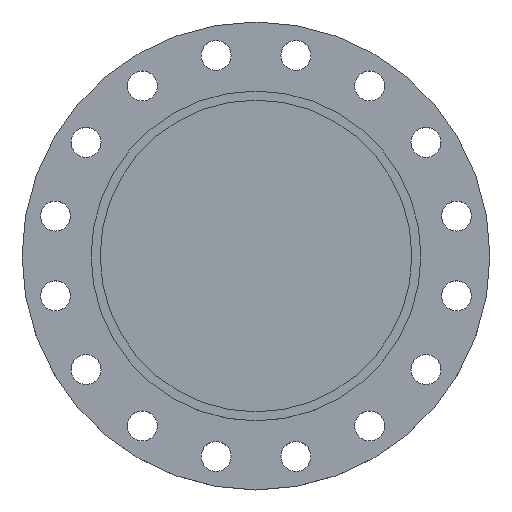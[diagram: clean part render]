
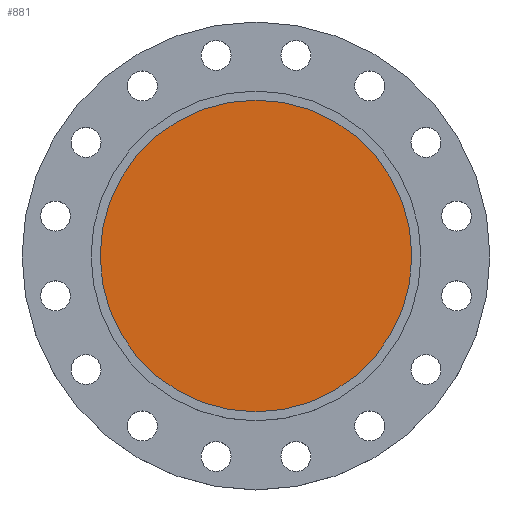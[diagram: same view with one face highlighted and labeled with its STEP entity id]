
A CAD part, top view. The second image highlights one B-rep face of the part: STEP entity #881.
In plain terms, the highlighted planar face has unit normal (0, 0, 1).
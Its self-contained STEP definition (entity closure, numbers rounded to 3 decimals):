
#81 = CARTESIAN_POINT ( 'NONE',  ( -171.5, 0., -5. ) ) ;
#89 = CIRCLE ( 'NONE', #988, 171.5 ) ;
#97 = EDGE_CURVE ( 'NONE', #1184, #430, #770, .T. ) ;
#164 = DIRECTION ( 'NONE',  ( -1., 0., 0. ) ) ;
#167 = DIRECTION ( 'NONE',  ( 0., 0., -1. ) ) ;
#168 = CARTESIAN_POINT ( 'NONE',  ( 0., 0., -5. ) ) ;
#430 = VERTEX_POINT ( 'NONE', #81 ) ;
#727 = CARTESIAN_POINT ( 'NONE',  ( 171.5, 0., -5. ) ) ;
#729 = CARTESIAN_POINT ( 'NONE',  ( 171.5, 0., -5. ) ) ;
#770 = CIRCLE ( 'NONE', #1469, 171.5 ) ;
#877 = EDGE_CURVE ( 'NONE', #430, #1184, #89, .T. ) ;
#881 = ADVANCED_FACE ( 'NONE', ( #1149 ), #1300, .T. ) ;
#988 = AXIS2_PLACEMENT_3D ( 'NONE', #1163, #1162, #1161 ) ;
#1135 = DIRECTION ( 'NONE',  ( 1., 0., 0. ) ) ;
#1145 = DIRECTION ( 'NONE',  ( 0., 0., 1. ) ) ;
#1149 = FACE_OUTER_BOUND ( 'NONE', #1400, .T. ) ;
#1161 = DIRECTION ( 'NONE',  ( -1., 0., 0. ) ) ;
#1162 = DIRECTION ( 'NONE',  ( 0., 0., -1. ) ) ;
#1163 = CARTESIAN_POINT ( 'NONE',  ( 0., 0., -5. ) ) ;
#1184 = VERTEX_POINT ( 'NONE', #727 ) ;
#1197 = AXIS2_PLACEMENT_3D ( 'NONE', #729, #1145, #1135 ) ;
#1300 = PLANE ( 'NONE',  #1197 ) ;
#1388 = ORIENTED_EDGE ( 'NONE', *, *, #877, .F. ) ;
#1390 = ORIENTED_EDGE ( 'NONE', *, *, #97, .F. ) ;
#1400 = EDGE_LOOP ( 'NONE', ( #1388, #1390 ) ) ;
#1469 = AXIS2_PLACEMENT_3D ( 'NONE', #168, #167, #164 ) ;
